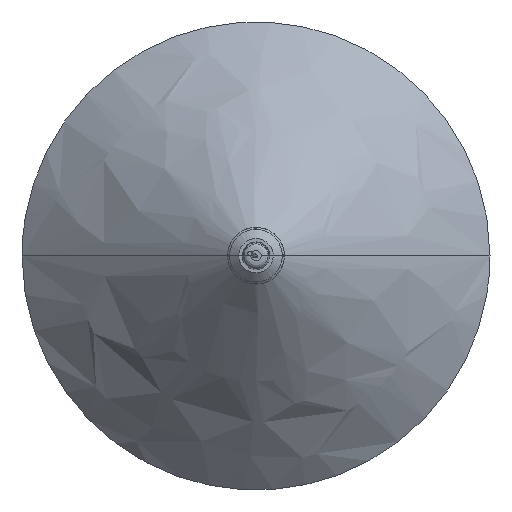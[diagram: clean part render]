
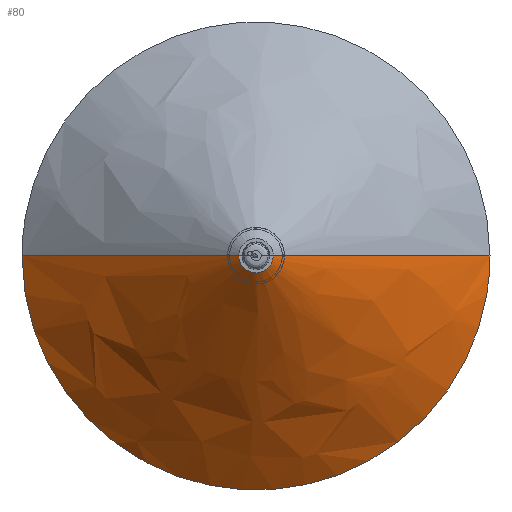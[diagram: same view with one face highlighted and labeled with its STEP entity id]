
A CAD part, top view. The second image highlights one B-rep face of the part: STEP entity #80.
In plain terms, the highlighted free-form (B-spline) face has degree [2, 1] with [5, 2] control points.
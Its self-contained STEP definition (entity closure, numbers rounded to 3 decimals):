
#80=ADVANCED_FACE('',(#133),#682,.T.);
#133=FACE_OUTER_BOUND('',#186,.T.);
#186=EDGE_LOOP('',(#288,#289,#290,#291));
#288=ORIENTED_EDGE('',*,*,#438,.T.);
#289=ORIENTED_EDGE('',*,*,#435,.T.);
#290=ORIENTED_EDGE('',*,*,#436,.T.);
#291=ORIENTED_EDGE('',*,*,#437,.F.);
#435=EDGE_CURVE('',#617,#618,#581,.T.);
#436=EDGE_CURVE('',#618,#620,#524,.T.);
#437=EDGE_CURVE('',#619,#620,#582,.T.);
#438=EDGE_CURVE('',#619,#617,#525,.T.);
#524=(
BOUNDED_CURVE()
B_SPLINE_CURVE(2,(#1434,#1435,#1436,#1437,#1438),.UNSPECIFIED.,.F.,.F.)
B_SPLINE_CURVE_WITH_KNOTS((3,2,3),(-2136.283,-1602.212,
-1068.142),.UNSPECIFIED.)
CURVE()
GEOMETRIC_REPRESENTATION_ITEM()
RATIONAL_B_SPLINE_CURVE((1.,0.707,1.,0.707,1.))
REPRESENTATION_ITEM('')
);
#525=(
BOUNDED_CURVE()
B_SPLINE_CURVE(2,(#1441,#1442,#1443,#1444,#1445),.UNSPECIFIED.,.F.,.F.)
B_SPLINE_CURVE_WITH_KNOTS((3,2,3),(1068.142,1602.212,2136.283),
 .UNSPECIFIED.)
CURVE()
GEOMETRIC_REPRESENTATION_ITEM()
RATIONAL_B_SPLINE_CURVE((1.,0.707,1.,0.707,1.))
REPRESENTATION_ITEM('')
);
#581=B_SPLINE_CURVE_WITH_KNOTS('',1,(#1432,#1433),.UNSPECIFIED.,.F.,.F.,
(2,2),(0.,201.793),.UNSPECIFIED.);
#582=B_SPLINE_CURVE_WITH_KNOTS('',1,(#1439,#1440),.UNSPECIFIED.,.F.,.F.,
(2,2),(0.,201.793),.UNSPECIFIED.);
#617=VERTEX_POINT('',#1423);
#618=VERTEX_POINT('',#1424);
#619=VERTEX_POINT('',#1425);
#620=VERTEX_POINT('',#1426);
#682=(
BOUNDED_SURFACE()
B_SPLINE_SURFACE(2,1,((#1413,#1414),(#1415,#1416),(#1417,#1418),(#1419,
#1420),(#1421,#1422)),.UNSPECIFIED.,.F.,.F.,.F.)
B_SPLINE_SURFACE_WITH_KNOTS((3,2,3),(2,2),(1068.142,1602.212,
2136.283),(0.,201.793),.UNSPECIFIED.)
GEOMETRIC_REPRESENTATION_ITEM()
RATIONAL_B_SPLINE_SURFACE(((1.,1.),(0.707,0.707),
(1.,1.),(0.707,0.707),(1.,1.)))
REPRESENTATION_ITEM('')
SURFACE()
);
#1413=CARTESIAN_POINT('',(1623.548,0.,1873.171));
#1414=CARTESIAN_POINT('',(1938.548,0.,2143.171));
#1415=CARTESIAN_POINT('',(1623.548,-340.,1873.171));
#1416=CARTESIAN_POINT('',(1938.548,-25.,2143.171));
#1417=CARTESIAN_POINT('',(1963.548,-340.,1873.171));
#1418=CARTESIAN_POINT('',(1963.548,-25.,2143.171));
#1419=CARTESIAN_POINT('',(2303.548,-340.,1873.171));
#1420=CARTESIAN_POINT('',(1988.548,-25.,2143.171));
#1421=CARTESIAN_POINT('',(2303.548,0.,1873.171));
#1422=CARTESIAN_POINT('',(1988.548,0.,2143.171));
#1423=CARTESIAN_POINT('',(2303.548,0.,1873.171));
#1424=CARTESIAN_POINT('',(1988.548,0.,2143.171));
#1425=CARTESIAN_POINT('',(1623.548,0.,1873.171));
#1426=CARTESIAN_POINT('',(1938.548,0.,2143.171));
#1432=CARTESIAN_POINT('',(2303.548,0.,1873.171));
#1433=CARTESIAN_POINT('',(1988.548,0.,2143.171));
#1434=CARTESIAN_POINT('',(1988.548,0.,2143.171));
#1435=CARTESIAN_POINT('',(1988.548,-25.,2143.171));
#1436=CARTESIAN_POINT('',(1963.548,-25.,2143.171));
#1437=CARTESIAN_POINT('',(1938.548,-25.,2143.171));
#1438=CARTESIAN_POINT('',(1938.548,0.,2143.171));
#1439=CARTESIAN_POINT('',(1623.548,0.,1873.171));
#1440=CARTESIAN_POINT('',(1938.548,0.,2143.171));
#1441=CARTESIAN_POINT('',(1623.548,0.,1873.171));
#1442=CARTESIAN_POINT('',(1623.548,-340.,1873.171));
#1443=CARTESIAN_POINT('',(1963.548,-340.,1873.171));
#1444=CARTESIAN_POINT('',(2303.548,-340.,1873.171));
#1445=CARTESIAN_POINT('',(2303.548,0.,1873.171));
